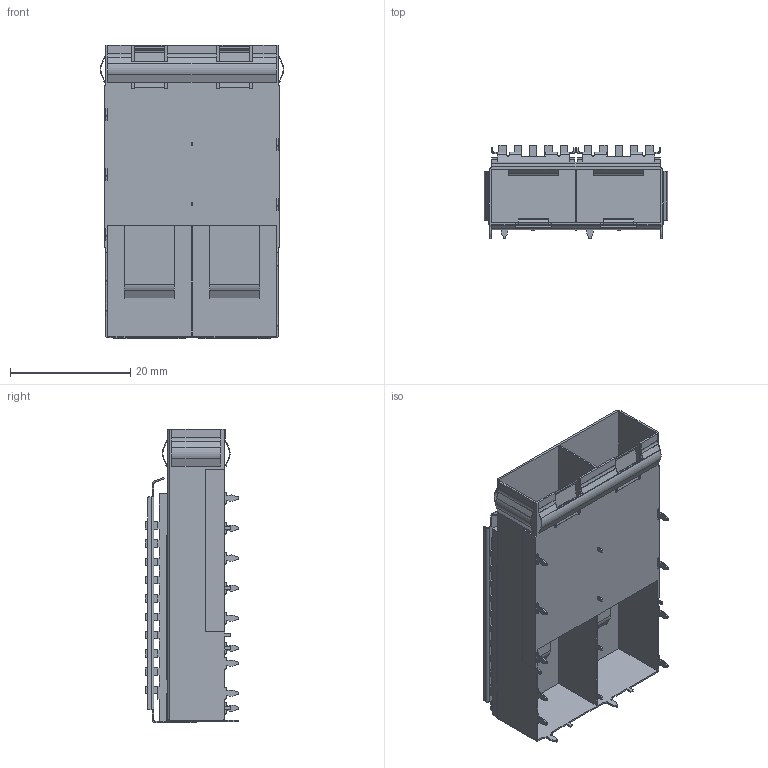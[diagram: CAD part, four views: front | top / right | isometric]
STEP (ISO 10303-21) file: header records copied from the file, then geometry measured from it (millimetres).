
FILE_DESCRIPTION (( 'STEP AP203' ), '1' );
FILE_NAME ('SFP+ 1X2 短款 压接脚2.05 无月牙 散热器15.8_3D-20231116.STEP', '2024-12-05T07:46:56', ( '' ), ( '' ), 'SwSTEP 2.0', 'SolidWorks 2018', '' );
FILE_SCHEMA (( 'CONFIG_CONTROL_DESIGN' ));
Length unit declared in the file: millimetre
Products named in the file (5): ___________________.STEP; SFP+ 1X2 短款 压接脚2.05 无月牙 散热器15.8_3D-20231116; Heat sink_________15.8.STEP; SFP+ 1X2 ______ _____________________________.STEP
Assembly tree (5 placements, depth 2):
  SFP+ 1X2 短款 压接脚2.05 无月牙 散热器15.8_3D-20231116
    SFP+ 1X2 ______ _____________________________.STEP
    Heat sink_________15.8.STEP
    ___________________.STEP  x2
    Heat sink_________15.8.STEP
Bounding box: 30.58 x 15.55 x 48.95 mm (x, y, z)
Volume: 3463.1 mm3; surface area: 13359 mm2
Topology: 5 solids, 5 shells, 1288 faces, 3670 edges, 2386 vertices
Faces by surface type: plane 992, cylinder 278, bspline 16, sphere 2
Entity records: 37291 total; most frequent: CARTESIAN_POINT 6694, ORIENTED_EDGE 6528, DIRECTION 5972, EDGE_CURVE 3264, LINE 2752, VECTOR 2752, VERTEX_POINT 2144, AXIS2_PLACEMENT_3D 1610
